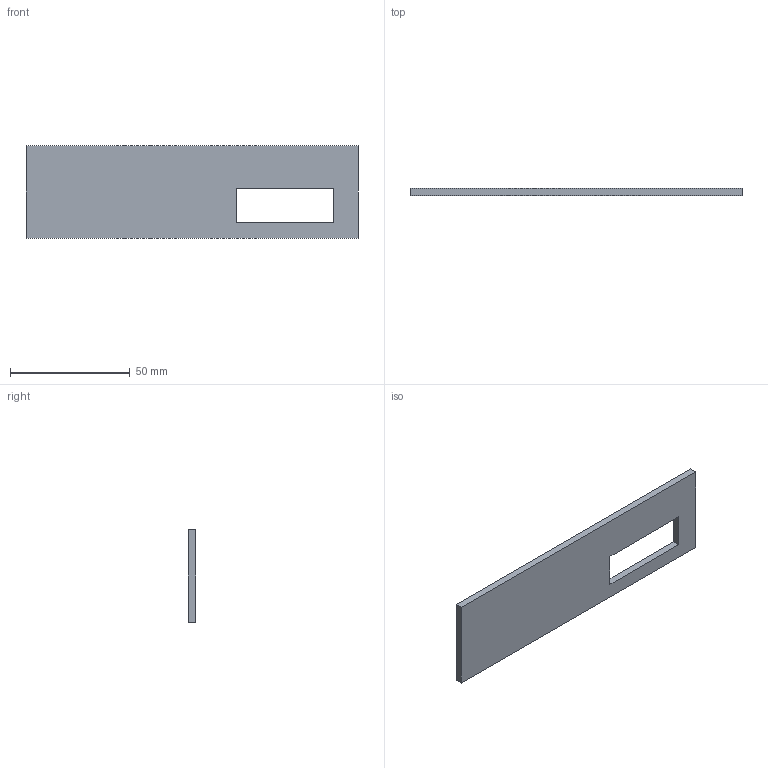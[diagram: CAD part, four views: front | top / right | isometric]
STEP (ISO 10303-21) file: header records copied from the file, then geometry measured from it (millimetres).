
FILE_DESCRIPTION(('Open CASCADE Model'),'2;1');
FILE_NAME('Open CASCADE Shape Model','2026-08-29T07:31:46',('Author'),( 'Open CASCADE'),'Open CASCADE STEP processor 7.9','build123d', 'Unknown');
FILE_SCHEMA(('AUTOMOTIVE_DESIGN { 1 0 10303 214 1 1 1 1 }'));
Length unit declared in the file: millimetre
Products named in the file (2): =>[0:1:1:2]; COMPOUND
Assembly tree (1 placements, depth 2):
  =>[0:1:1:2]
    COMPOUND
Bounding box: 138.9 x 3 x 38.76 mm (x, y, z)
Volume: 14377 mm3; surface area: 10994.9 mm2
Topology: 1 solids, 1 shells, 10 faces, 24 edges, 16 vertices
Faces by surface type: plane 10
Entity records: 632 total; most frequent: CARTESIAN_POINT 100, DIRECTION 96, LINE 72, VECTOR 72, ORIENTED_EDGE 48, PCURVE 48, DEFINITIONAL_REPRESENTATION 48, EDGE_CURVE 24
